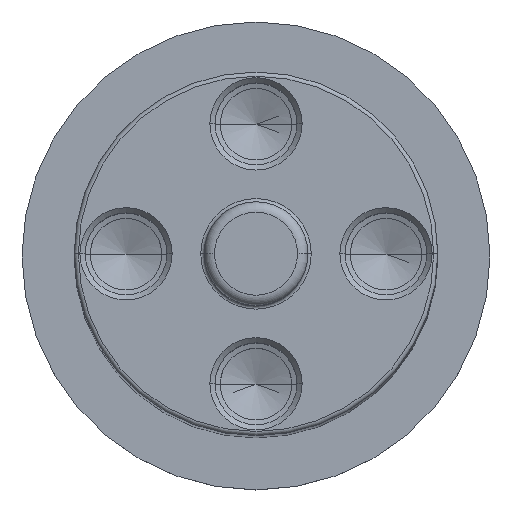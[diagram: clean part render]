
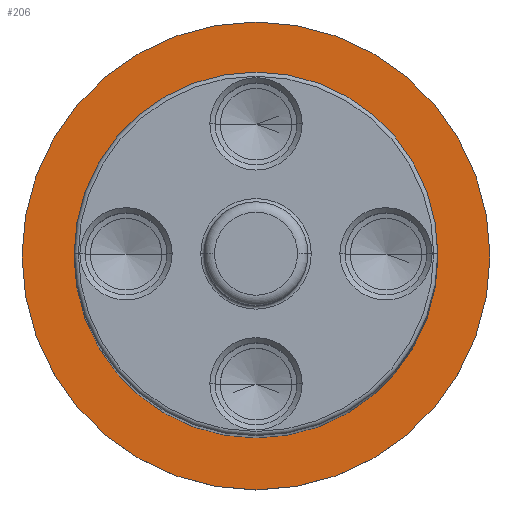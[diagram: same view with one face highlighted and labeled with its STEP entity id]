
A CAD part, top view. The second image highlights one B-rep face of the part: STEP entity #206.
In plain terms, the highlighted planar face has unit normal (0, 0, 1).
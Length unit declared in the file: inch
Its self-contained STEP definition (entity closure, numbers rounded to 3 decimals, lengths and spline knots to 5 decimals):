
#167 = EDGE_CURVE ( 'NONE', #225, #189, #1064, .T. ) ;
#170 = EDGE_LOOP ( 'NONE', ( #173, #172 ) ) ;
#171 = ORIENTED_EDGE ( 'NONE', *, *, #228, .T. ) ;
#172 = ORIENTED_EDGE ( 'NONE', *, *, #178, .F. ) ;
#173 = ORIENTED_EDGE ( 'NONE', *, *, #221, .F. ) ;
#178 = EDGE_CURVE ( 'NONE', #207, #222, #1149, .T. ) ;
#189 = VERTEX_POINT ( 'NONE', #1042 ) ;
#205 = ORIENTED_EDGE ( 'NONE', *, *, #167, .T. ) ;
#206 = ADVANCED_FACE ( 'NONE', ( #2327, #2211 ), #2324, .T. ) ;
#207 = VERTEX_POINT ( 'NONE', #2234 ) ;
#221 = EDGE_CURVE ( 'NONE', #222, #207, #2214, .T. ) ;
#222 = VERTEX_POINT ( 'NONE', #2311 ) ;
#225 = VERTEX_POINT ( 'NONE', #2310 ) ;
#228 = EDGE_CURVE ( 'NONE', #189, #225, #2272, .T. ) ;
#230 = EDGE_LOOP ( 'NONE', ( #205, #171 ) ) ;
#1038 = DIRECTION ( 'NONE',  ( 1., 0., 0. ) ) ;
#1039 = DIRECTION ( 'NONE',  ( 0., 0., 1. ) ) ;
#1040 = CARTESIAN_POINT ( 'NONE',  ( 0., 0., -5.875 ) ) ;
#1042 = CARTESIAN_POINT ( 'NONE',  ( 1.125, 0., -5.875 ) ) ;
#1056 = DIRECTION ( 'NONE',  ( 1., 0., 0. ) ) ;
#1057 = DIRECTION ( 'NONE',  ( 0., 0., 1. ) ) ;
#1058 = CARTESIAN_POINT ( 'NONE',  ( 0., 0., -5.875 ) ) ;
#1059 = AXIS2_PLACEMENT_3D ( 'NONE', #1058, #1057, #1056 ) ;
#1064 = CIRCLE ( 'NONE', #1145, 1.125 ) ;
#1145 = AXIS2_PLACEMENT_3D ( 'NONE', #1040, #1039, #1038 ) ;
#1149 = CIRCLE ( 'NONE', #1059, 0.875 ) ;
#2211 = FACE_BOUND ( 'NONE', #170, .T. ) ;
#2214 = CIRCLE ( 'NONE', #2222, 0.875 ) ;
#2222 = AXIS2_PLACEMENT_3D ( 'NONE', #2258, #2308, #2307 ) ;
#2234 = CARTESIAN_POINT ( 'NONE',  ( 0.875, 0., -5.875 ) ) ;
#2242 = DIRECTION ( 'NONE',  ( 1., 0., 0. ) ) ;
#2243 = DIRECTION ( 'NONE',  ( 0., 0., 1. ) ) ;
#2258 = CARTESIAN_POINT ( 'NONE',  ( 0., 0., -5.875 ) ) ;
#2263 = AXIS2_PLACEMENT_3D ( 'NONE', #2264, #2243, #2242 ) ;
#2264 = CARTESIAN_POINT ( 'NONE',  ( 0., 0., -5.875 ) ) ;
#2272 = CIRCLE ( 'NONE', #2341, 1.125 ) ;
#2273 = CARTESIAN_POINT ( 'NONE',  ( 0., 0., -5.875 ) ) ;
#2307 = DIRECTION ( 'NONE',  ( 1., 0., 0. ) ) ;
#2308 = DIRECTION ( 'NONE',  ( 0., 0., 1. ) ) ;
#2310 = CARTESIAN_POINT ( 'NONE',  ( -1.125, 0., -5.875 ) ) ;
#2311 = CARTESIAN_POINT ( 'NONE',  ( -0.875, 0., -5.875 ) ) ;
#2324 = PLANE ( 'NONE',  #2263 ) ;
#2327 = FACE_OUTER_BOUND ( 'NONE', #230, .T. ) ;
#2338 = DIRECTION ( 'NONE',  ( 1., 0., 0. ) ) ;
#2339 = DIRECTION ( 'NONE',  ( 0., 0., 1. ) ) ;
#2341 = AXIS2_PLACEMENT_3D ( 'NONE', #2273, #2339, #2338 ) ;
